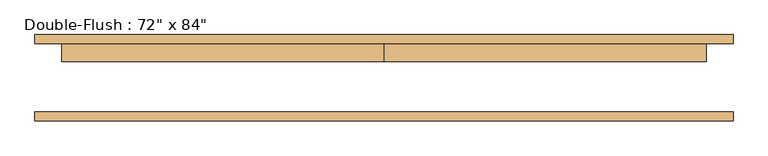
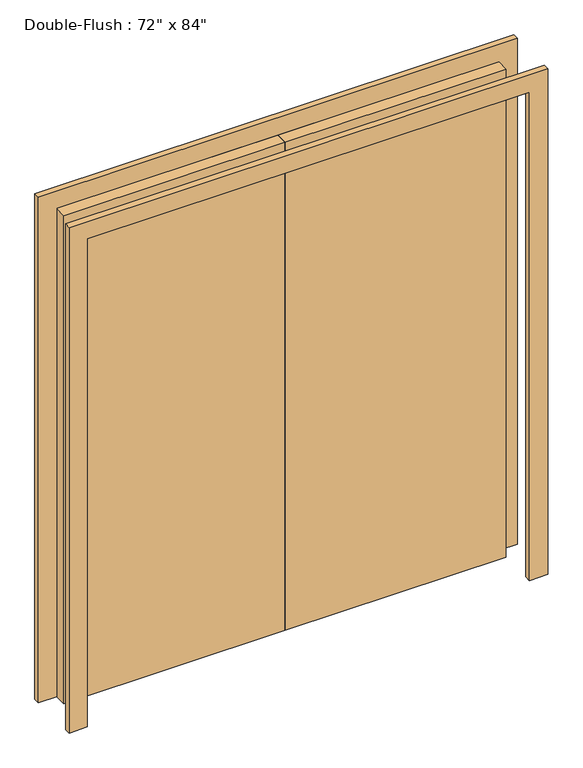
"""IFC4 building model written with IfcOpenShell, lengths in millimetres: door geometry."""

from ifc_helpers import new_model, si_unit, frame, origin, origin_with_axes, place, context, project, spatial, polyline, outline, extrude, source, transform, mapped, element, save


def door_e0fa97f4(model_context):
    return source(origin(), model_context, "Body", "SweptSolid", [
        extrude(outline(polyline([(0.0, 96.8375), (914.4, 96.8375), (914.4, 46.0375), (0.0, 46.0375), (0.0, 96.8375)])), origin_with_axes(), (0.0, 0.0, 1.0), 2133.6),
        extrude(outline(polyline([(-914.4, 96.8375), (0.0, 96.8375), (0.0, 46.0375), (-914.4, 46.0375), (-914.4, 96.8375)])), origin_with_axes(), (0.0, 0.0, 1.0), 2133.6),
        extrude(outline(polyline([(2133.6, -914.4), (2133.6, 914.4), (0.0, 914.4), (0.0, 990.6), (2209.8, 990.6), (2209.8, -990.6), (0.0, -990.6), (0.0, -914.4), (2133.6, -914.4)])), frame((0.0, -122.2375, 0.0), z_axis=(0.0, 1.0, 0.0), x_axis=(0.0, 0.0, 1.0)), (0.0, 0.0, 1.0), 25.4),
        extrude(outline(polyline([(2133.6, -914.4), (2133.6, 914.4), (0.0, 914.4), (0.0, 990.6), (2209.8, 990.6), (2209.8, -990.6), (0.0, -990.6), (0.0, -914.4), (2133.6, -914.4)])), frame((0.0, 96.8375, 0.0), z_axis=(0.0, 1.0, 0.0), x_axis=(0.0, 0.0, 1.0)), (0.0, 0.0, 1.0), 25.4),
    ])


if __name__ == "__main__":
    model = new_model("IFC4")
    model_context = context("Model", 3, world=origin())
    ifc_project = project(units=[si_unit("LENGTHUNIT", "METRE", prefix="MILLI")], contexts=[model_context])
    site = spatial("IfcSite", under=ifc_project)
    building = spatial("IfcBuilding", under=site)
    placement = place(None, origin())
    door_shape = door_e0fa97f4(model_context)
    element("IfcDoor", 1, ObjectType="Double-Flush : 72\" x 84\"", at=placement, inside=building, context=model_context, shape_type="MappedRepresentation", body=[
        mapped(door_shape, transform((0.0, 0.0, 0.0), x_axis=(1.0, 0.0, 0.0), y_axis=(0.0, 1.0, 0.0), z_axis=(0.0, 0.0, 1.0))),
    ])
    save(model, "model.ifc")
